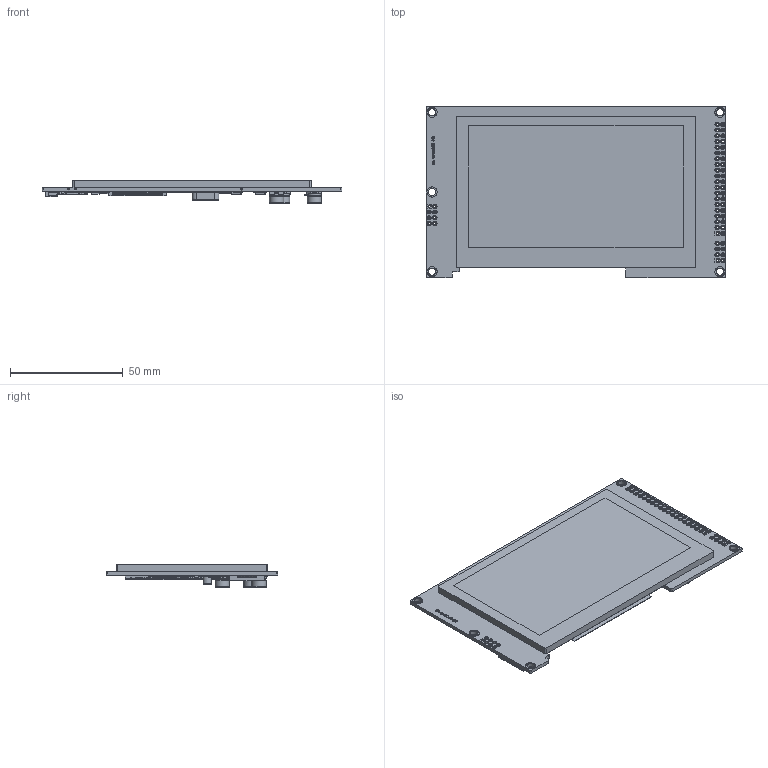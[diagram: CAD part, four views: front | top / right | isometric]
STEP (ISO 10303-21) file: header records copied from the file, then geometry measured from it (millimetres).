
FILE_DESCRIPTION(('HOOPS Exchange Step'),'2;1');
FILE_NAME('\\Server-1\e\公共文件夹\7.产品资料库\彩色-TFT\4.3寸\ER-TFTM043-7S\3D\ER-TFTM043-7S_3D.step','2021-01-28T09:50:49+08:00',('Administrator'),('Unknown organisation'),'HOOPS Exchange 2018.2','glovius.exe','Unknown authorisation');
FILE_SCHEMA( ('AUTOMOTIVE_DESIGN { 1 0 10303 214 1 1 1 1 }') );
Length unit declared in the file: millimetre
Products named in the file (13): 固态电容-1; FLASH_IC-1; 连接器_50-Pin-1; 连接器_50-Pin - 副本-1; SD卡座-1; 连接器_6-Pin-1; 主控IC_new-1; XPT2046-1; SO-14 (PIC16F684)-1-1; 晶振-1; 43-7S-1; Default; ER-TFTM043-7S
Assembly tree (15 placements, depth 3):
  ER-TFTM043-7S
    Default
      固态电容-1  x3
      FLASH_IC-1  x2
      连接器_50-Pin-1
      连接器_50-Pin - 副本-1
      SD卡座-1
      连接器_6-Pin-1
      主控IC_new-1
      XPT2046-1
      SO-14 (PIC16F684)-1-1
      晶振-1
      43-7S-1
Bounding box: 132.7 x 75.8 x 10.21 mm (x, y, z)
Volume: 39065.7 mm3; surface area: 36232.2 mm2
Topology: 242 solids, 245 shells, 9890 faces, 25446 edges, 16242 vertices
Faces by surface type: bspline 9890
Entity records: 930895 total; most frequent: CARTESIAN_POINT 611571, B_SPLINE_CURVE_WITH_KNOTS 66499, DEFINITIONAL_REPRESENTATION 49092, PCURVE 49092, ORIENTED_EDGE 49092, INTERSECTION_CURVE 24546, EDGE_CURVE 24546, VERTEX_POINT 15840
